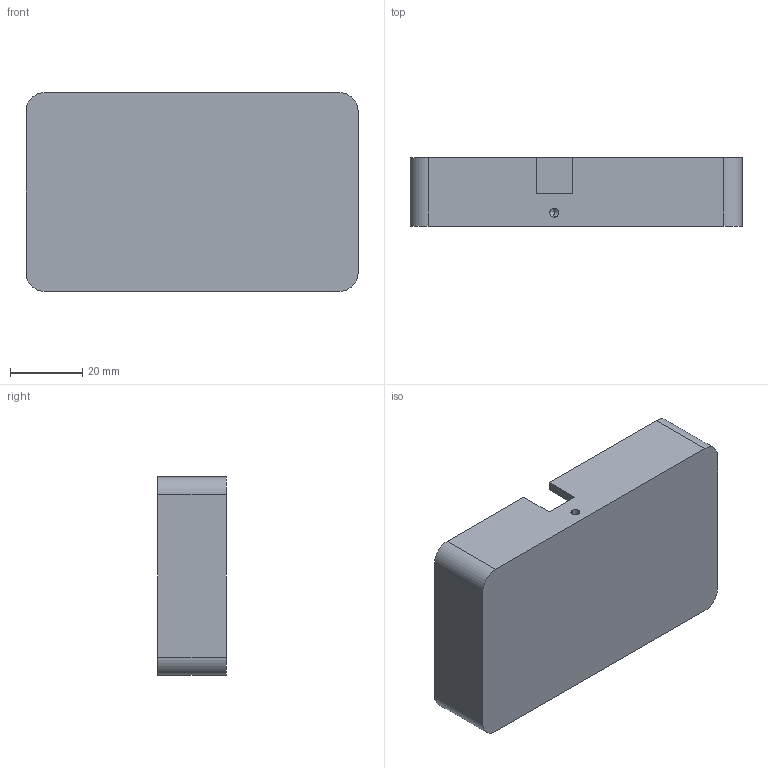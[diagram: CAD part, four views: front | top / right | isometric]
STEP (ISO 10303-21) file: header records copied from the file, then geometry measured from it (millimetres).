
FILE_DESCRIPTION (( 'STEP AP214' ), '1' );
FILE_NAME ('11-333-00010-0102-01 Êîðïóñ.STEP', '2021-06-07T08:36:22', ( '' ), ( '' ), 'SwSTEP 2.0', 'SolidWorks 2021', '' );
FILE_SCHEMA (( 'AUTOMOTIVE_DESIGN' ));
Length unit declared in the file: millimetre
Products named in the file (1): 11-333-00010-0102-01 扻豵鵨
Bounding box: 92 x 19 x 55 mm (x, y, z)
Volume: 44764 mm3; surface area: 19083.6 mm2
Topology: 1 solids, 1 shells, 82 faces, 208 edges, 126 vertices
Faces by surface type: cylinder 34, plane 28, cone 20
Entity records: 2550 total; most frequent: DIRECTION 438, CARTESIAN_POINT 405, ORIENTED_EDGE 392, EDGE_CURVE 196, AXIS2_PLACEMENT_3D 159, VERTEX_POINT 126, VECTOR 120, LINE 120
